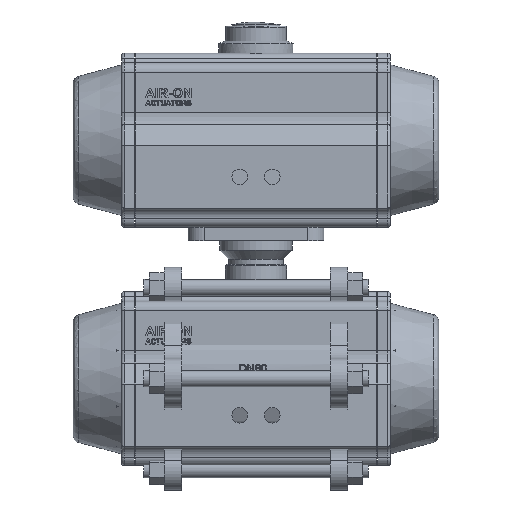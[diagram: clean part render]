
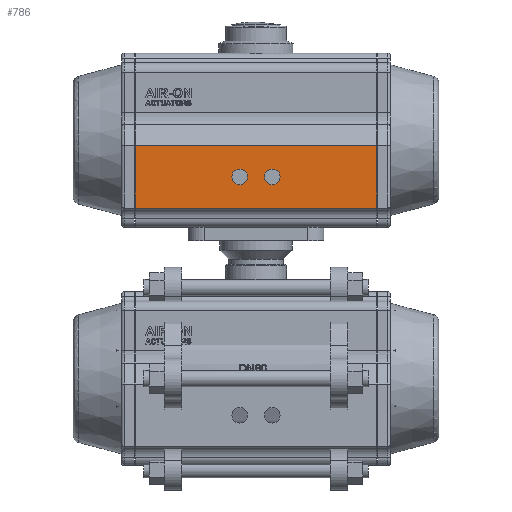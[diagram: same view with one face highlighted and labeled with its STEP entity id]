
A CAD part, front view. The second image highlights one B-rep face of the part: STEP entity #786.
In plain terms, the highlighted planar face has unit normal (0, -1, 0).
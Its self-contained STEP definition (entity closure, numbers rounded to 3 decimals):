
#786 = ADVANCED_FACE( '', ( #2189, #2190, #2191 ), #2192, .T. );
#2189 = FACE_BOUND( '', #4576, .T. );
#2190 = FACE_BOUND( '', #4577, .T. );
#2191 = FACE_OUTER_BOUND( '', #4578, .T. );
#2192 = PLANE( '', #4579 );
#4576 = EDGE_LOOP( '', ( #10027 ) );
#4577 = EDGE_LOOP( '', ( #10028 ) );
#4578 = EDGE_LOOP( '', ( #10029, #10030, #10031, #10032 ) );
#4579 = AXIS2_PLACEMENT_3D( '', #10033, #10034, #10035 );
#10027 = ORIENTED_EDGE( '', *, *, #15835, .T. );
#10028 = ORIENTED_EDGE( '', *, *, #15679, .T. );
#10029 = ORIENTED_EDGE( '', *, *, #15836, .F. );
#10030 = ORIENTED_EDGE( '', *, *, #15837, .F. );
#10031 = ORIENTED_EDGE( '', *, *, #15838, .T. );
#10032 = ORIENTED_EDGE( '', *, *, #15839, .T. );
#10033 = CARTESIAN_POINT( '', ( 89., -67., -50. ) );
#10034 = DIRECTION( '', ( 0., -1., 0. ) );
#10035 = DIRECTION( '', ( 0., 0., -1. ) );
#15679 = EDGE_CURVE( '', #17970, #17970, #17971, .T. );
#15835 = EDGE_CURVE( '', #18245, #18245, #18246, .T. );
#15836 = EDGE_CURVE( '', #18247, #18248, #18249, .T. );
#15837 = EDGE_CURVE( '', #18250, #18247, #18251, .T. );
#15838 = EDGE_CURVE( '', #18250, #18252, #18253, .T. );
#15839 = EDGE_CURVE( '', #18252, #18248, #18254, .T. );
#17970 = VERTEX_POINT( '', #22427 );
#17971 = CIRCLE( '', #22428, 5.723 );
#18245 = VERTEX_POINT( '', #23108 );
#18246 = CIRCLE( '', #23109, 5.723 );
#18247 = VERTEX_POINT( '', #23110 );
#18248 = VERTEX_POINT( '', #23111 );
#18249 = LINE( '', #23112, #23113 );
#18250 = VERTEX_POINT( '', #23114 );
#18251 = LINE( '', #23115, #23116 );
#18252 = VERTEX_POINT( '', #23117 );
#18253 = LINE( '', #23118, #23119 );
#18254 = LINE( '', #23120, #23121 );
#22427 = CARTESIAN_POINT( '', ( 12., -67., -32.723 ) );
#22428 = AXIS2_PLACEMENT_3D( '', #29423, #29424, #29425 );
#23108 = CARTESIAN_POINT( '', ( -12., -67., -32.723 ) );
#23109 = AXIS2_PLACEMENT_3D( '', #29599, #29600, #29601 );
#23110 = CARTESIAN_POINT( '', ( -89., -67., -50. ) );
#23111 = CARTESIAN_POINT( '', ( -89., -67., -4. ) );
#23112 = CARTESIAN_POINT( '', ( -89., -67., -50. ) );
#23113 = VECTOR( '', #29602, 1000. );
#23114 = CARTESIAN_POINT( '', ( 89., -67., -50. ) );
#23115 = CARTESIAN_POINT( '', ( 89., -67., -50. ) );
#23116 = VECTOR( '', #29603, 1000. );
#23117 = CARTESIAN_POINT( '', ( 89., -67., -4. ) );
#23118 = CARTESIAN_POINT( '', ( 89., -67., -50. ) );
#23119 = VECTOR( '', #29604, 1000. );
#23120 = CARTESIAN_POINT( '', ( 89., -67., -4. ) );
#23121 = VECTOR( '', #29605, 1000. );
#29423 = CARTESIAN_POINT( '', ( 12., -67., -27. ) );
#29424 = DIRECTION( '', ( 0., 1., 0. ) );
#29425 = DIRECTION( '', ( 0., 0., -1. ) );
#29599 = CARTESIAN_POINT( '', ( -12., -67., -27. ) );
#29600 = DIRECTION( '', ( 0., 1., 0. ) );
#29601 = DIRECTION( '', ( 0., 0., -1. ) );
#29602 = DIRECTION( '', ( 0., 0., 1. ) );
#29603 = DIRECTION( '', ( -1., 0., 0. ) );
#29604 = DIRECTION( '', ( 0., 0., 1. ) );
#29605 = DIRECTION( '', ( -1., 0., 0. ) );
